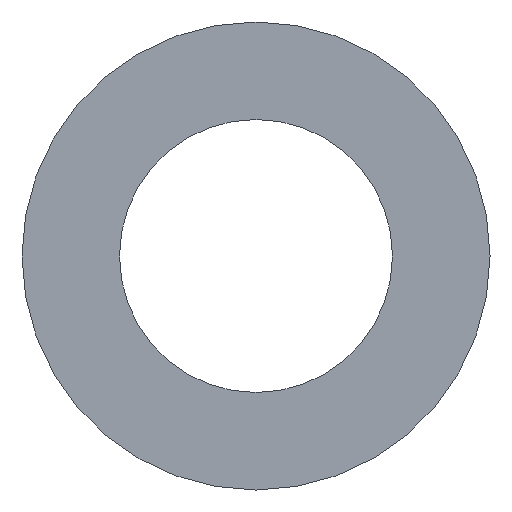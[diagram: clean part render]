
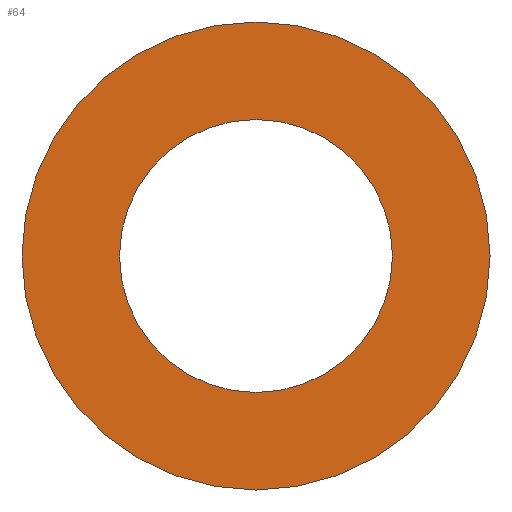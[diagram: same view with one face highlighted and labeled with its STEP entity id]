
A CAD part, front view. The second image highlights one B-rep face of the part: STEP entity #64.
In plain terms, the highlighted planar face has unit normal (0, -1, 0).
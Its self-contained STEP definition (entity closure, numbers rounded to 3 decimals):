
#16=FACE_BOUND('',#28,.T.);
#18=PLANE('',#95);
#22=FACE_OUTER_BOUND('',#27,.T.);
#27=EDGE_LOOP('',(#57));
#28=EDGE_LOOP('',(#58));
#33=CIRCLE('',#89,5.25);
#36=CIRCLE('',#93,9.);
#37=VERTEX_POINT('',#118);
#40=VERTEX_POINT('',#126);
#41=EDGE_CURVE('',#37,#37,#33,.T.);
#46=EDGE_CURVE('',#40,#40,#36,.T.);
#57=ORIENTED_EDGE('',*,*,#46,.T.);
#58=ORIENTED_EDGE('',*,*,#41,.T.);
#64=ADVANCED_FACE('',(#22,#16),#18,.F.);
#89=AXIS2_PLACEMENT_3D('',#119,#100,#101);
#93=AXIS2_PLACEMENT_3D('',#128,#110,#111);
#95=AXIS2_PLACEMENT_3D('',#130,#114,#115);
#100=DIRECTION('center_axis',(0.,1.,0.));
#101=DIRECTION('ref_axis',(1.,0.,0.));
#110=DIRECTION('center_axis',(0.,-1.,0.));
#111=DIRECTION('ref_axis',(1.,0.,0.));
#114=DIRECTION('center_axis',(0.,1.,0.));
#115=DIRECTION('ref_axis',(0.,0.,1.));
#118=CARTESIAN_POINT('',(-5.25,0.,0.));
#119=CARTESIAN_POINT('Origin',(0.,0.,0.));
#126=CARTESIAN_POINT('',(-9.,0.,0.));
#128=CARTESIAN_POINT('Origin',(0.,0.,0.));
#130=CARTESIAN_POINT('Origin',(0.,0.,0.));
